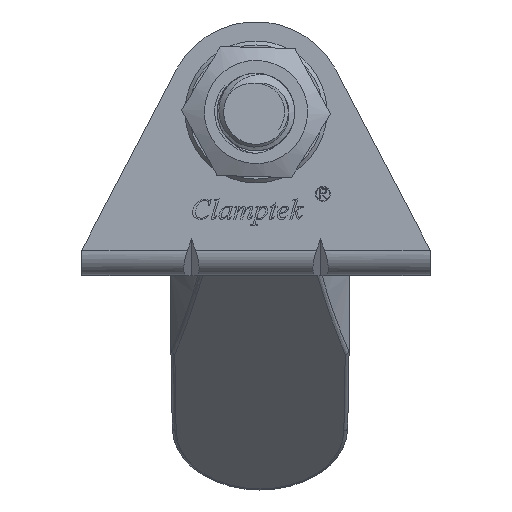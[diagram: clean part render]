
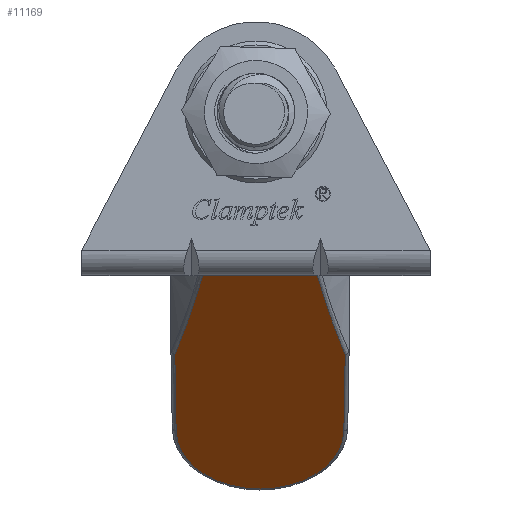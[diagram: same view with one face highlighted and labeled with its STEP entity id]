
A CAD part, left-side view. The second image highlights one B-rep face of the part: STEP entity #11169.
In plain terms, the highlighted planar face has unit normal (-0.693, 0, -0.721) as drawn and (0.703, 0.712, 0) by its records, which use the part's own axes.
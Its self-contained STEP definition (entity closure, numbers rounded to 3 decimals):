
#393=ELLIPSE('',#11956,68.003,45.337);
#394=ELLIPSE('',#11957,68.003,45.337);
#1214=PLANE('',#11955);
#1719=FACE_OUTER_BOUND('',#2378,.T.);
#2378=EDGE_LOOP('',(#9844,#9845,#9846,#9847,#9848,#9849));
#3265=LINE('',#27401,#4100);
#3276=LINE('',#27596,#4111);
#3277=LINE('',#27600,#4112);
#4100=VECTOR('',#13811,1000.);
#4111=VECTOR('',#13856,1000.);
#4112=VECTOR('',#13861,1000.);
#4324=CIRCLE('',#11928,6.5);
#5294=VERTEX_POINT('',#27338);
#5295=VERTEX_POINT('',#27340);
#5306=VERTEX_POINT('',#27389);
#5307=VERTEX_POINT('',#27400);
#5338=VERTEX_POINT('',#27595);
#5339=VERTEX_POINT('',#27598);
#6838=EDGE_CURVE('',#5295,#5294,#4324,.T.);
#6852=EDGE_CURVE('',#5307,#5306,#3265,.T.);
#6888=EDGE_CURVE('',#5294,#5338,#3276,.T.);
#6889=EDGE_CURVE('',#5338,#5307,#393,.T.);
#6890=EDGE_CURVE('',#5306,#5339,#394,.T.);
#6891=EDGE_CURVE('',#5339,#5295,#3277,.T.);
#9844=ORIENTED_EDGE('',*,*,#6888,.T.);
#9845=ORIENTED_EDGE('',*,*,#6889,.T.);
#9846=ORIENTED_EDGE('',*,*,#6852,.T.);
#9847=ORIENTED_EDGE('',*,*,#6890,.T.);
#9848=ORIENTED_EDGE('',*,*,#6891,.T.);
#9849=ORIENTED_EDGE('',*,*,#6838,.T.);
#11169=ADVANCED_FACE('',(#1719),#1214,.T.);
#11928=AXIS2_PLACEMENT_3D('',#27341,#13786,#13787);
#11955=AXIS2_PLACEMENT_3D('',#27594,#13854,#13855);
#11956=AXIS2_PLACEMENT_3D('',#27597,#13857,#13858);
#11957=AXIS2_PLACEMENT_3D('',#27599,#13859,#13860);
#13786=DIRECTION('center_axis',(0.703,0.712,0.));
#13787=DIRECTION('ref_axis',(-0.712,0.703,0.));
#13811=DIRECTION('',(0.,0.,-1.));
#13854=DIRECTION('center_axis',(0.703,0.712,0.));
#13855=DIRECTION('ref_axis',(-0.712,0.703,0.));
#13856=DIRECTION('',(0.712,-0.702,0.012));
#13857=DIRECTION('center_axis',(-0.703,-0.712,0.));
#13858=DIRECTION('ref_axis',(0.708,-0.699,-0.102));
#13859=DIRECTION('center_axis',(-0.703,-0.712,0.));
#13860=DIRECTION('ref_axis',(0.708,-0.699,0.102));
#13861=DIRECTION('',(-0.712,0.702,0.012));
#27338=CARTESIAN_POINT('',(-34.901,26.458,21.499));
#27340=CARTESIAN_POINT('',(-34.901,26.458,8.499));
#27341=CARTESIAN_POINT('Origin',(-34.902,26.46,14.999));
#27389=CARTESIAN_POINT('',(-22.43,14.147,10.578));
#27400=CARTESIAN_POINT('',(-22.43,14.147,19.422));
#27401=CARTESIAN_POINT('',(-22.43,14.147,30.));
#27594=CARTESIAN_POINT('Origin',(-47.006,38.408,0.));
#27595=CARTESIAN_POINT('',(-28.812,20.448,21.602));
#27596=CARTESIAN_POINT('',(-28.936,20.57,21.6));
#27597=CARTESIAN_POINT('Origin',(-12.718,4.56,63.188));
#27598=CARTESIAN_POINT('',(-28.812,20.448,8.398));
#27599=CARTESIAN_POINT('Origin',(-12.718,4.56,-33.188));
#27600=CARTESIAN_POINT('',(-34.9,26.457,8.499));
